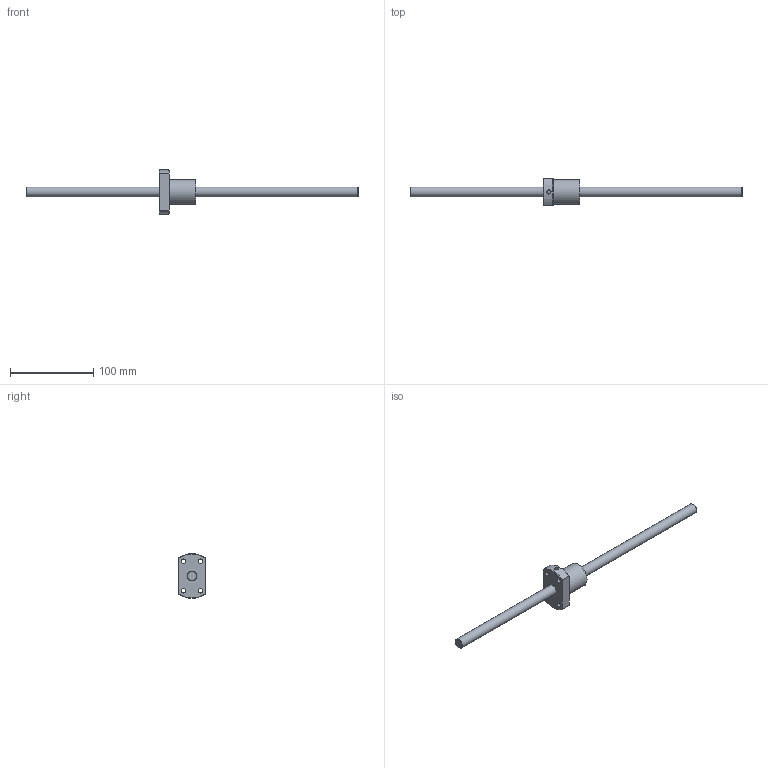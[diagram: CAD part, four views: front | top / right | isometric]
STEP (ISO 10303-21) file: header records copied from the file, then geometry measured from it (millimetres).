
FILE_DESCRIPTION((''),'2;1');
FILE_NAME('D:\製品 (図面)\カタログ用3D\ネジ関連\STEP形式\RBSMA\RBSMA1210-0400.stp','2010-06-02T14:42:21',('Tsuchiya'),(''),'Autodesk Inventor 10','Autodesk Inventor 10','');
FILE_SCHEMA(('AUTOMOTIVE_DESIGN { 1 0 10303 214 1 1 1 1 }'));
Length unit declared in the file: millimetre
Products named in the file (3): RBSMA1210-0400; RBSMA1210-04001; RBSMA1210-04002
Assembly tree (2 placements, depth 2):
  RBSMA1210-0400
    RBSMA1210-04001
    RBSMA1210-04002
Bounding box: 400 x 32 x 54 mm (x, y, z)
Volume: 80751.9 mm3; surface area: 25698.2 mm2
Topology: 2 solids, 2 shells, 24 faces, 60 edges, 41 vertices
Faces by surface type: cylinder 9, cone 7, plane 7, bspline 1
Full cylindrical faces by diameter (mm): 5.5 x4, 12 x2, 30 x1
Entity records: 861 total; most frequent: CARTESIAN_POINT 271, DIRECTION 114, ORIENTED_EDGE 88, AXIS2_PLACEMENT_3D 53, EDGE_LOOP 48, EDGE_CURVE 44, VERTEX_POINT 36, CIRCLE 25
